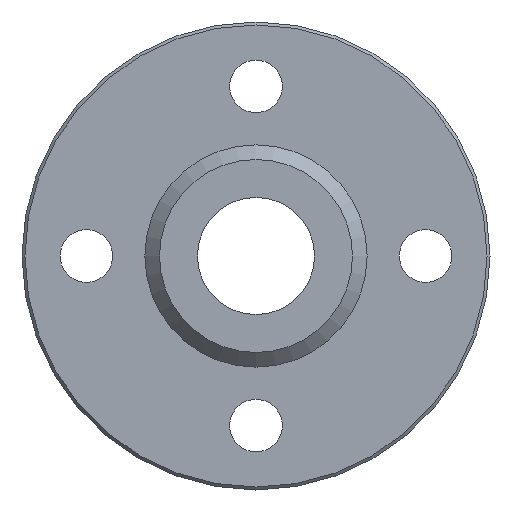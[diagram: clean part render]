
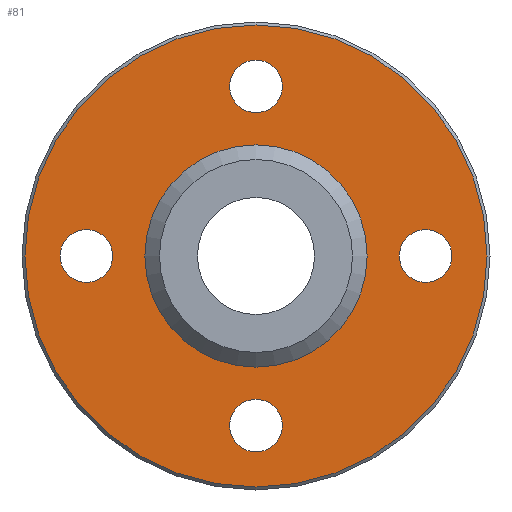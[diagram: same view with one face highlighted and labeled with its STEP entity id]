
A CAD part, left-side view. The second image highlights one B-rep face of the part: STEP entity #81.
In plain terms, the highlighted planar face has unit normal (-1, 0, 0).
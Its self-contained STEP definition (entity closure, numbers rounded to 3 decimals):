
#81=ADVANCED_FACE('',(#119,#120,#121,#122,#123,#124),#125,.F.);
#119=FACE_BOUND('',#190,.T.);
#120=FACE_BOUND('',#191,.T.);
#121=FACE_BOUND('',#192,.T.);
#122=FACE_BOUND('',#193,.T.);
#123=FACE_BOUND('',#194,.T.);
#124=FACE_OUTER_BOUND('',#195,.T.);
#125=PLANE('',#196);
#190=EDGE_LOOP('',(#273));
#191=EDGE_LOOP('',(#274));
#192=EDGE_LOOP('',(#275));
#193=EDGE_LOOP('',(#276));
#194=EDGE_LOOP('',(#277));
#195=EDGE_LOOP('',(#278));
#196=AXIS2_PLACEMENT_3D('',#279,#280,#281);
#273=ORIENTED_EDGE('',*,*,#364,.T.);
#274=ORIENTED_EDGE('',*,*,#365,.T.);
#275=ORIENTED_EDGE('',*,*,#366,.T.);
#276=ORIENTED_EDGE('',*,*,#367,.T.);
#277=ORIENTED_EDGE('',*,*,#363,.F.);
#278=ORIENTED_EDGE('',*,*,#368,.T.);
#279=CARTESIAN_POINT('',(-9.0,19.746,0.0));
#280=DIRECTION('',(1.0,0.0,0.0));
#281=DIRECTION('',(0.0,0.0,-1.0));
#363=EDGE_CURVE('',#399,#399,#400,.T.);
#364=EDGE_CURVE('',#401,#401,#402,.T.);
#365=EDGE_CURVE('',#403,#403,#404,.T.);
#366=EDGE_CURVE('',#405,#405,#406,.T.);
#367=EDGE_CURVE('',#407,#407,#408,.T.);
#368=EDGE_CURVE('',#409,#409,#410,.T.);
#399=VERTEX_POINT('',#449);
#400=CIRCLE('',#450,9.5);
#401=VERTEX_POINT('',#451);
#402=CIRCLE('',#452,2.25);
#403=VERTEX_POINT('',#453);
#404=CIRCLE('',#454,2.25);
#405=VERTEX_POINT('',#455);
#406=CIRCLE('',#456,2.25);
#407=VERTEX_POINT('',#457);
#408=CIRCLE('',#458,2.25);
#409=VERTEX_POINT('',#459);
#410=CIRCLE('',#460,19.746);
#449=CARTESIAN_POINT('',(-9.0,0.0,9.5));
#450=AXIS2_PLACEMENT_3D('',#510,#511,#512);
#451=CARTESIAN_POINT('',(-9.0,14.5,-2.25));
#452=AXIS2_PLACEMENT_3D('',#513,#514,#515);
#453=CARTESIAN_POINT('',(-9.0,0.0,-16.75));
#454=AXIS2_PLACEMENT_3D('',#516,#517,#518);
#455=CARTESIAN_POINT('',(-9.0,-14.5,-2.25));
#456=AXIS2_PLACEMENT_3D('',#519,#520,#521);
#457=CARTESIAN_POINT('',(-9.0,0.0,12.25));
#458=AXIS2_PLACEMENT_3D('',#522,#523,#524);
#459=CARTESIAN_POINT('',(-9.0,0.0,19.746));
#460=AXIS2_PLACEMENT_3D('',#525,#526,#527);
#510=CARTESIAN_POINT('',(-9.0,0.0,0.0));
#511=DIRECTION('',(-1.0,0.0,0.0));
#512=DIRECTION('',(0.0,0.0,1.0));
#513=CARTESIAN_POINT('',(-9.0,14.5,0.0));
#514=DIRECTION('',(1.0,0.0,0.0));
#515=DIRECTION('',(0.0,0.0,-1.0));
#516=CARTESIAN_POINT('',(-9.0,0.0,-14.5));
#517=DIRECTION('',(1.0,0.0,0.0));
#518=DIRECTION('',(0.0,0.0,-1.0));
#519=CARTESIAN_POINT('',(-9.0,-14.5,0.0));
#520=DIRECTION('',(1.0,0.0,0.0));
#521=DIRECTION('',(0.0,0.0,-1.0));
#522=CARTESIAN_POINT('',(-9.0,0.0,14.5));
#523=DIRECTION('',(1.0,0.0,0.0));
#524=DIRECTION('',(0.0,0.0,-1.0));
#525=CARTESIAN_POINT('',(-9.0,0.0,0.0));
#526=DIRECTION('',(-1.0,0.0,0.0));
#527=DIRECTION('',(0.0,0.0,1.0));
